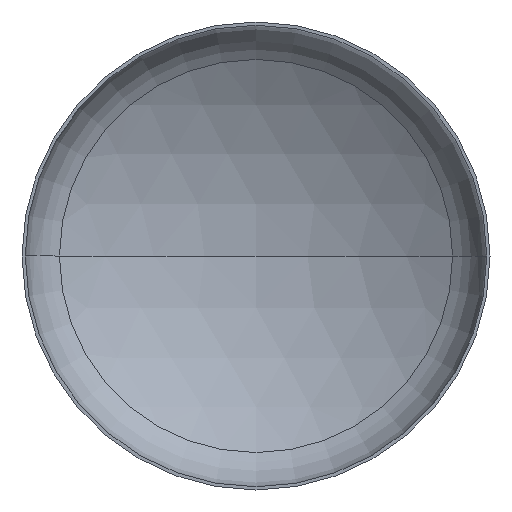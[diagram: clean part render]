
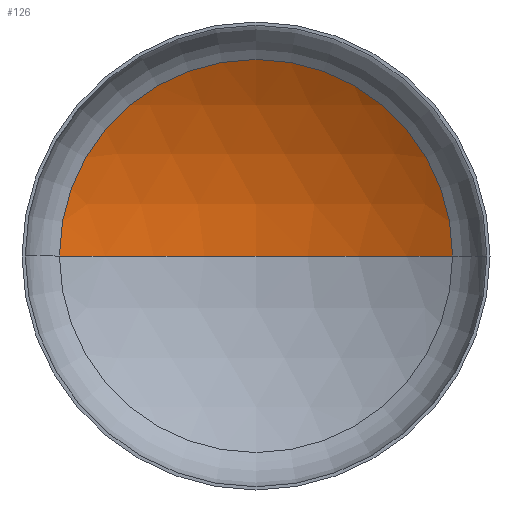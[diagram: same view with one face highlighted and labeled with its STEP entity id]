
A CAD part, front view. The second image highlights one B-rep face of the part: STEP entity #126.
In plain terms, the highlighted spherical face has radius 6400 mm.
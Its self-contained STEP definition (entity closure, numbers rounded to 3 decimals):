
#26 = VERTEX_POINT ( 'NONE', #228 ) ;
#30 = AXIS2_PLACEMENT_3D ( 'NONE', #237, #347, #257 ) ;
#54 = AXIS2_PLACEMENT_3D ( 'NONE', #284, #281, #196 ) ;
#56 = AXIS2_PLACEMENT_3D ( 'NONE', #268, #148, #159 ) ;
#59 = AXIS2_PLACEMENT_3D ( 'NONE', #294, #292, #289 ) ;
#82 = EDGE_CURVE ( 'NONE', #112, #26, #342, .T. ) ;
#84 = EDGE_CURVE ( 'NONE', #170, #112, #206, .T. ) ;
#85 = EDGE_CURVE ( 'NONE', #170, #26, #406, .T. ) ;
#112 = VERTEX_POINT ( 'NONE', #149 ) ;
#126 = ADVANCED_FACE ( 'NONE', ( #318 ), #185, .F. ) ;
#129 = CARTESIAN_POINT ( 'NONE',  ( 0., 2119.647, 0. ) ) ;
#148 = DIRECTION ( 'NONE',  ( 0., 0., -1. ) ) ;
#149 = CARTESIAN_POINT ( 'NONE',  ( 3359.691, 1166.892, 0. ) ) ;
#159 = DIRECTION ( 'NONE',  ( -1., 0., 0. ) ) ;
#170 = VERTEX_POINT ( 'NONE', #129 ) ;
#185 = SPHERICAL_SURFACE ( 'NONE', #30, 6400. ) ;
#196 = DIRECTION ( 'NONE',  ( 1., 0., 0. ) ) ;
#206 = CIRCLE ( 'NONE', #56, 6400. ) ;
#228 = CARTESIAN_POINT ( 'NONE',  ( -3359.691, 1166.892, 0. ) ) ;
#230 = ORIENTED_EDGE ( 'NONE', *, *, #84, .T. ) ;
#237 = CARTESIAN_POINT ( 'NONE',  ( 0., -4280.353, 0. ) ) ;
#243 = EDGE_LOOP ( 'NONE', ( #290, #230, #392 ) ) ;
#257 = DIRECTION ( 'NONE',  ( -1., 0., 0. ) ) ;
#268 = CARTESIAN_POINT ( 'NONE',  ( 0., -4280.353, 0. ) ) ;
#281 = DIRECTION ( 'NONE',  ( 0., 0., 1. ) ) ;
#284 = CARTESIAN_POINT ( 'NONE',  ( 0., -4280.353, 0. ) ) ;
#289 = DIRECTION ( 'NONE',  ( 1., 0., 0. ) ) ;
#290 = ORIENTED_EDGE ( 'NONE', *, *, #85, .F. ) ;
#292 = DIRECTION ( 'NONE',  ( 0., -1., 0. ) ) ;
#294 = CARTESIAN_POINT ( 'NONE',  ( 0., 1166.892, 0. ) ) ;
#318 = FACE_OUTER_BOUND ( 'NONE', #243, .T. ) ;
#342 = CIRCLE ( 'NONE', #59, 3359.691 ) ;
#347 = DIRECTION ( 'NONE',  ( 0., 0., -1. ) ) ;
#392 = ORIENTED_EDGE ( 'NONE', *, *, #82, .T. ) ;
#406 = CIRCLE ( 'NONE', #54, 6400. ) ;
